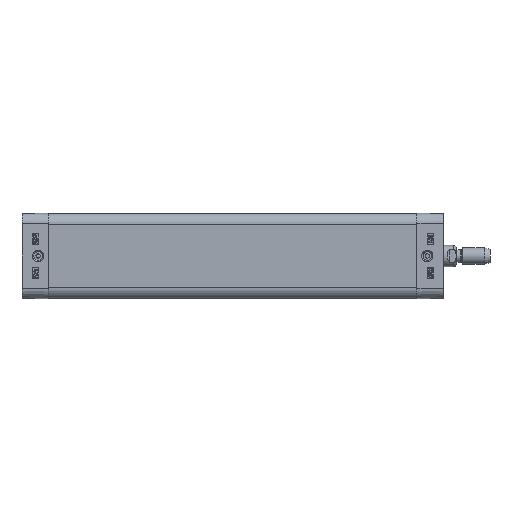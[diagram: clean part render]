
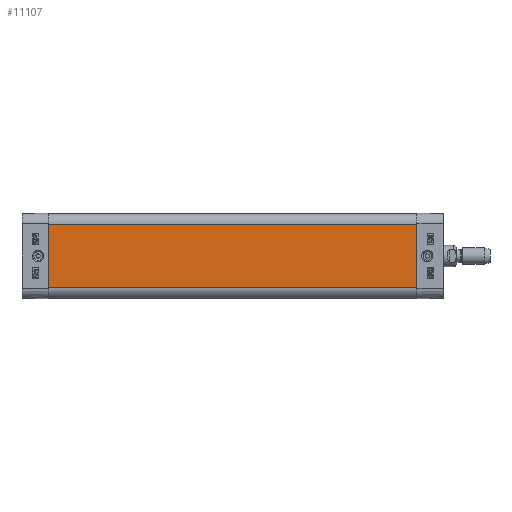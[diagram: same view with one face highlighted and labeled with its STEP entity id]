
A CAD part, left-side view. The second image highlights one B-rep face of the part: STEP entity #11107.
In plain terms, the highlighted planar face has unit normal (-1, 0, 0).
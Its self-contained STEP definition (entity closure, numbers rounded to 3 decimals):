
#8889=CARTESIAN_POINT('',(-20.,-174.0,15.0));
#8890=VERTEX_POINT('',#8889);
#8898=CARTESIAN_POINT('',(-20.,-174.0,-15.));
#8899=VERTEX_POINT('',#8898);
#8900=CARTESIAN_POINT('',(-20.,-174.0,-15.));
#8901=DIRECTION('',(0.0,0.0,1.0));
#8902=VECTOR('',#8901,30.);
#8903=LINE('',#8900,#8902);
#8904=EDGE_CURVE('',#8899,#8890,#8903,.T.);
#10035=CARTESIAN_POINT('',(-20.,0.0,15.0));
#10036=VERTEX_POINT('',#10035);
#10044=CARTESIAN_POINT('',(-20.,0.0,15.0));
#10045=DIRECTION('',(0.0,-1.0,0.0));
#10046=VECTOR('',#10045,174.0);
#10047=LINE('',#10044,#10046);
#10048=EDGE_CURVE('',#10036,#8890,#10047,.T.);
#11072=CARTESIAN_POINT('',(-20.,0.0,-15.));
#11073=VERTEX_POINT('',#11072);
#11074=CARTESIAN_POINT('',(-20.,0.0,-15.));
#11075=DIRECTION('',(0.0,-1.0,0.0));
#11076=VECTOR('',#11075,174.0);
#11077=LINE('',#11074,#11076);
#11078=EDGE_CURVE('',#11073,#8899,#11077,.T.);
#11091=CARTESIAN_POINT('',(-20.,0.0,-15.));
#11092=DIRECTION('',(-1.0,0.0,0.0));
#11093=DIRECTION('',(0.0,0.0,1.0));
#11094=AXIS2_PLACEMENT_3D('',#11091,#11092,#11093);
#11095=PLANE('',#11094);
#11096=ORIENTED_EDGE('',*,*,#8904,.T.);
#11097=ORIENTED_EDGE('',*,*,#10048,.F.);
#11098=CARTESIAN_POINT('',(-20.,0.0,-15.));
#11099=DIRECTION('',(0.0,0.0,1.0));
#11100=VECTOR('',#11099,30.);
#11101=LINE('',#11098,#11100);
#11102=EDGE_CURVE('',#11073,#10036,#11101,.T.);
#11103=ORIENTED_EDGE('',*,*,#11102,.F.);
#11104=ORIENTED_EDGE('',*,*,#11078,.T.);
#11105=EDGE_LOOP('',(#11096,#11097,#11103,#11104));
#11106=FACE_OUTER_BOUND('',#11105,.T.);
#11107=ADVANCED_FACE('',(#11106),#11095,.T.);
